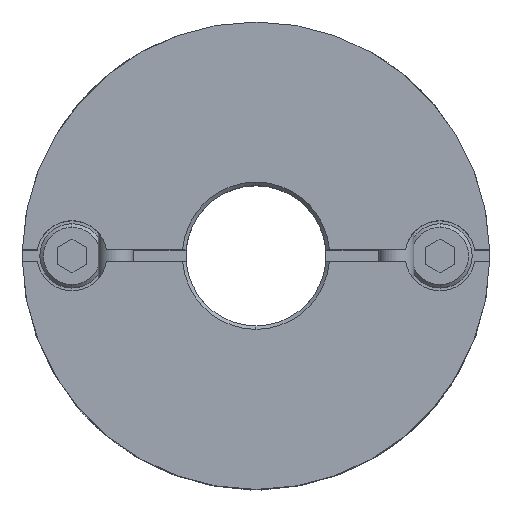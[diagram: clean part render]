
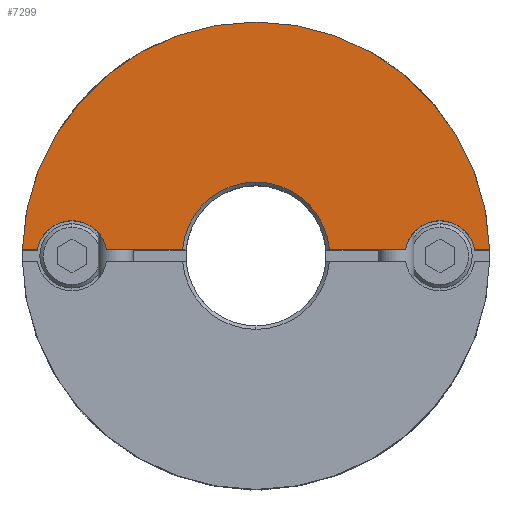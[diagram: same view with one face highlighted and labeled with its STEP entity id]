
A CAD part, top view. The second image highlights one B-rep face of the part: STEP entity #7299.
In plain terms, the highlighted planar face has unit normal (0, 0, 1).
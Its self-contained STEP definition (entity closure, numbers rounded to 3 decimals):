
#605=CARTESIAN_POINT('',(0.,20.0,15.6));
#606=VERTEX_POINT('',#605);
#690=CARTESIAN_POINT('',(-19.994,0.5,15.6));
#691=VERTEX_POINT('',#690);
#698=CARTESIAN_POINT('',(0.,0.0,15.6));
#699=DIRECTION('',(0.0,0.0,-1.0));
#700=DIRECTION('',(0.0,1.0,0.0));
#701=AXIS2_PLACEMENT_3D('',#698,#699,#700);
#702=CIRCLE('',#701,20.0);
#703=EDGE_CURVE('',#691,#606,#702,.T.);
#993=CARTESIAN_POINT('',(0.,6.3,15.6));
#994=VERTEX_POINT('',#993);
#1001=CARTESIAN_POINT('',(-6.28,0.5,15.6));
#1002=VERTEX_POINT('',#1001);
#1003=CARTESIAN_POINT('',(0.,0.,15.6));
#1004=DIRECTION('',(0.0,0.0,1.0));
#1005=DIRECTION('',(0.0,-1.0,0.0));
#1006=AXIS2_PLACEMENT_3D('',#1003,#1004,#1005);
#1007=CIRCLE('',#1006,6.3);
#1008=EDGE_CURVE('',#994,#1002,#1007,.T.);
#1309=CARTESIAN_POINT('',(-15.75,3.,15.6));
#1310=VERTEX_POINT('',#1309);
#1319=CARTESIAN_POINT('',(-18.708,0.5,15.6));
#1320=VERTEX_POINT('',#1319);
#1321=CARTESIAN_POINT('',(-15.75,0.,15.6));
#1322=DIRECTION('',(0.0,0.0,-1.0));
#1323=DIRECTION('',(0.0,1.0,0.0));
#1324=AXIS2_PLACEMENT_3D('',#1321,#1322,#1323);
#1325=CIRCLE('',#1324,3.0);
#1326=EDGE_CURVE('',#1320,#1310,#1325,.T.);
#1579=CARTESIAN_POINT('',(15.75,3.,15.6));
#1580=VERTEX_POINT('',#1579);
#1589=CARTESIAN_POINT('',(12.792,0.5,15.6));
#1590=VERTEX_POINT('',#1589);
#1591=CARTESIAN_POINT('',(15.75,0.,15.6));
#1592=DIRECTION('',(0.0,0.0,-1.0));
#1593=DIRECTION('',(0.0,1.0,0.0));
#1594=AXIS2_PLACEMENT_3D('',#1591,#1592,#1593);
#1595=CIRCLE('',#1594,3.0);
#1596=EDGE_CURVE('',#1590,#1580,#1595,.T.);
#6010=CARTESIAN_POINT('',(18.708,0.5,15.6));
#6011=VERTEX_POINT('',#6010);
#6018=CARTESIAN_POINT('',(15.75,0.,15.6));
#6019=DIRECTION('',(0.0,0.0,-1.0));
#6020=DIRECTION('',(0.0,1.0,0.0));
#6021=AXIS2_PLACEMENT_3D('',#6018,#6019,#6020);
#6022=CIRCLE('',#6021,3.0);
#6023=EDGE_CURVE('',#1580,#6011,#6022,.T.);
#6462=CARTESIAN_POINT('',(-12.792,0.5,15.6));
#6463=VERTEX_POINT('',#6462);
#6470=CARTESIAN_POINT('',(-15.75,0.,15.6));
#6471=DIRECTION('',(0.0,0.0,-1.0));
#6472=DIRECTION('',(0.0,1.0,0.0));
#6473=AXIS2_PLACEMENT_3D('',#6470,#6471,#6472);
#6474=CIRCLE('',#6473,3.0);
#6475=EDGE_CURVE('',#1310,#6463,#6474,.T.);
#6568=CARTESIAN_POINT('',(-12.792,0.5,15.6));
#6569=DIRECTION('',(1.0,0.0,0.0));
#6570=VECTOR('',#6569,6.512);
#6571=LINE('',#6568,#6570);
#6572=EDGE_CURVE('',#6463,#1002,#6571,.T.);
#6635=CARTESIAN_POINT('',(6.28,0.5,15.6));
#6636=VERTEX_POINT('',#6635);
#6637=CARTESIAN_POINT('',(6.28,0.5,15.6));
#6638=DIRECTION('',(1.0,0.0,0.0));
#6639=VECTOR('',#6638,6.512);
#6640=LINE('',#6637,#6639);
#6641=EDGE_CURVE('',#6636,#1590,#6640,.T.);
#7202=CARTESIAN_POINT('',(-19.994,0.5,15.6));
#7203=DIRECTION('',(1.0,0.0,0.0));
#7204=VECTOR('',#7203,1.286);
#7205=LINE('',#7202,#7204);
#7206=EDGE_CURVE('',#691,#1320,#7205,.T.);
#7261=CARTESIAN_POINT('',(0.,1.818,15.6));
#7262=DIRECTION('',(0.0,0.0,1.0));
#7263=DIRECTION('',(0.0,1.0,0.0));
#7264=AXIS2_PLACEMENT_3D('',#7261,#7262,#7263);
#7265=PLANE('',#7264);
#7266=ORIENTED_EDGE('',*,*,#1326,.T.);
#7267=ORIENTED_EDGE('',*,*,#6475,.T.);
#7268=ORIENTED_EDGE('',*,*,#6572,.T.);
#7269=ORIENTED_EDGE('',*,*,#1008,.F.);
#7270=CARTESIAN_POINT('',(0.,0.,15.6));
#7271=DIRECTION('',(0.0,0.0,1.0));
#7272=DIRECTION('',(0.0,-1.0,0.0));
#7273=AXIS2_PLACEMENT_3D('',#7270,#7271,#7272);
#7274=CIRCLE('',#7273,6.3);
#7275=EDGE_CURVE('',#6636,#994,#7274,.T.);
#7276=ORIENTED_EDGE('',*,*,#7275,.F.);
#7277=ORIENTED_EDGE('',*,*,#6641,.T.);
#7278=ORIENTED_EDGE('',*,*,#1596,.T.);
#7279=ORIENTED_EDGE('',*,*,#6023,.T.);
#7280=CARTESIAN_POINT('',(19.994,0.5,15.6));
#7281=VERTEX_POINT('',#7280);
#7282=CARTESIAN_POINT('',(18.708,0.5,15.6));
#7283=DIRECTION('',(1.0,0.0,0.0));
#7284=VECTOR('',#7283,1.286);
#7285=LINE('',#7282,#7284);
#7286=EDGE_CURVE('',#6011,#7281,#7285,.T.);
#7287=ORIENTED_EDGE('',*,*,#7286,.T.);
#7288=CARTESIAN_POINT('',(0.,0.0,15.6));
#7289=DIRECTION('',(0.0,0.0,-1.0));
#7290=DIRECTION('',(0.0,1.0,0.0));
#7291=AXIS2_PLACEMENT_3D('',#7288,#7289,#7290);
#7292=CIRCLE('',#7291,20.0);
#7293=EDGE_CURVE('',#606,#7281,#7292,.T.);
#7294=ORIENTED_EDGE('',*,*,#7293,.F.);
#7295=ORIENTED_EDGE('',*,*,#703,.F.);
#7296=ORIENTED_EDGE('',*,*,#7206,.T.);
#7297=EDGE_LOOP('',(#7266,#7267,#7268,#7269,#7276,#7277,#7278,#7279,#7287,#7294,#7295,#7296));
#7298=FACE_OUTER_BOUND('',#7297,.T.);
#7299=ADVANCED_FACE('',(#7298),#7265,.T.);
